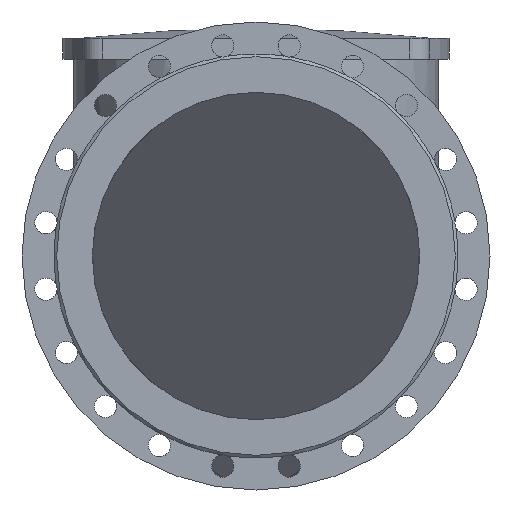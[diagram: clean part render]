
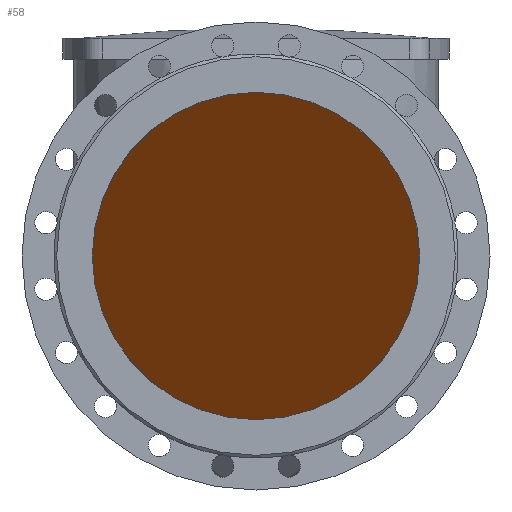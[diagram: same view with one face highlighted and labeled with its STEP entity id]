
A CAD part, front view. The second image highlights one B-rep face of the part: STEP entity #58.
In plain terms, the highlighted planar face has unit normal (0, -0.707, -0.707).
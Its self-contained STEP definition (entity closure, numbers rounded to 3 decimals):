
#58=ADVANCED_FACE('',(#878),#880,.T.);
#878=FACE_BOUND('',#879,.T.);
#879=EDGE_LOOP('',(#2953));
#880=PLANE('',#881);
#881=AXIS2_PLACEMENT_3D('',#882,#883,#884);
#882=CARTESIAN_POINT('',(-357.5,-316.292,316.292));
#883=DIRECTION('',(0.,-0.707,-0.707));
#884=DIRECTION('',(0.,0.707,-0.707));
#2953=ORIENTED_EDGE('',*,*,#3558,.T.);
#3558=EDGE_CURVE('',#3857,#3857,#3858,.F.);
#3857=VERTEX_POINT('',#4380);
#3858=(BOUNDED_CURVE()B_SPLINE_CURVE(3,
(#4381,#4382,#4383,#4384,#4385,#4386,#4387),
.UNSPECIFIED.,.T.,.F.)B_SPLINE_CURVE_WITH_KNOTS((4,3,4),
(0.,0.5,1.),
.UNSPECIFIED.)CURVE()GEOMETRIC_REPRESENTATION_ITEM()RATIONAL_B_SPLINE_CURVE((1.,
0.333,0.333,1.,0.333,0.333,1.))
REPRESENTATION_ITEM(''));
#4380=CARTESIAN_POINT('',(0.,-250.,250.));
#4381=CARTESIAN_POINT('',(0.,-250.,250.));
#4382=CARTESIAN_POINT('',(500.,-250.,250.));
#4383=CARTESIAN_POINT('',(500.,250.,-250.));
#4384=CARTESIAN_POINT('',(0.,250.,-250.));
#4385=CARTESIAN_POINT('',(-500.,250.,-250.));
#4386=CARTESIAN_POINT('',(-500.,-250.,250.));
#4387=CARTESIAN_POINT('',(0.,-250.,250.));
